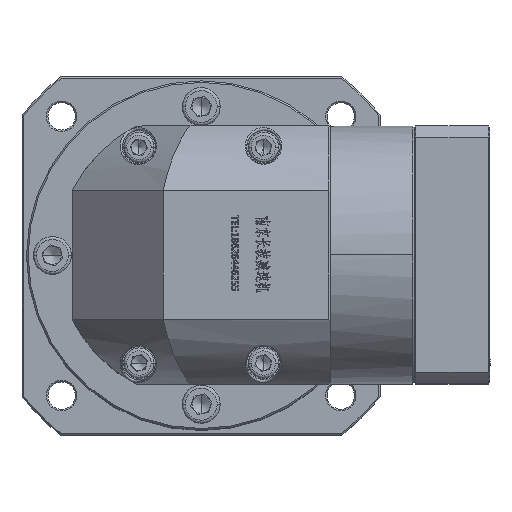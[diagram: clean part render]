
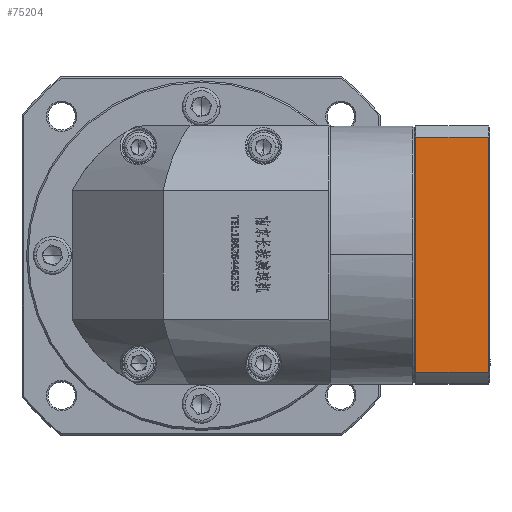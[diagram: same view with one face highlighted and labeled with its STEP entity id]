
A CAD part, top view. The second image highlights one B-rep face of the part: STEP entity #75204.
In plain terms, the highlighted planar face has unit normal (0, 0, 1).
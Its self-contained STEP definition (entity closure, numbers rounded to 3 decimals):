
#1488 = ORIENTED_EDGE ( 'NONE', *, *, #99392, .F. ) ;
#16878 = DIRECTION ( 'NONE',  ( 0., -1., 0. ) ) ;
#19899 = VERTEX_POINT ( 'NONE', #39829 ) ;
#28090 = EDGE_CURVE ( 'NONE', #171164, #110408, #60056, .T. ) ;
#29531 = EDGE_LOOP ( 'NONE', ( #147765, #52056, #99926, #1488 ) ) ;
#36474 = LINE ( 'NONE', #134497, #136483 ) ;
#37305 = DIRECTION ( 'NONE',  ( 0., 0., -1. ) ) ;
#39829 = CARTESIAN_POINT ( 'NONE',  ( 82.38, 104.232, 60.743 ) ) ;
#42121 = VECTOR ( 'NONE', #16878, 1000. ) ;
#44118 = CARTESIAN_POINT ( 'NONE',  ( 82.38, 100.462, 60.743 ) ) ;
#44289 = DIRECTION ( 'NONE',  ( 0., -1., 0. ) ) ;
#52056 = ORIENTED_EDGE ( 'NONE', *, *, #174159, .F. ) ;
#54184 = CARTESIAN_POINT ( 'NONE',  ( 106.38, 104.232, 60.743 ) ) ;
#59630 = VECTOR ( 'NONE', #171931, 1000. ) ;
#60056 = LINE ( 'NONE', #84724, #111062 ) ;
#68902 = CARTESIAN_POINT ( 'NONE',  ( 106.38, 181.691, 60.743 ) ) ;
#72100 = AXIS2_PLACEMENT_3D ( 'NONE', #118734, #37305, #132461 ) ;
#75204 = ADVANCED_FACE ( 'NONE', ( #128796 ), #91441, .F. ) ;
#76849 = CARTESIAN_POINT ( 'NONE',  ( -82.381, 104.232, 60.743 ) ) ;
#80273 = CARTESIAN_POINT ( 'NONE',  ( 82.38, 181.691, 60.743 ) ) ;
#84724 = CARTESIAN_POINT ( 'NONE',  ( 106.38, 100.462, 60.743 ) ) ;
#90530 = EDGE_CURVE ( 'NONE', #149736, #19899, #146411, .T. ) ;
#91441 = PLANE ( 'NONE',  #72100 ) ;
#99392 = EDGE_CURVE ( 'NONE', #149736, #171164, #36474, .T. ) ;
#99926 = ORIENTED_EDGE ( 'NONE', *, *, #28090, .F. ) ;
#110408 = VERTEX_POINT ( 'NONE', #54184 ) ;
#111062 = VECTOR ( 'NONE', #44289, 1000. ) ;
#118734 = CARTESIAN_POINT ( 'NONE',  ( 106.88, 100.462, 60.743 ) ) ;
#127750 = LINE ( 'NONE', #76849, #59630 ) ;
#128796 = FACE_OUTER_BOUND ( 'NONE', #29531, .T. ) ;
#132461 = DIRECTION ( 'NONE',  ( 0., 1., 0. ) ) ;
#134497 = CARTESIAN_POINT ( 'NONE',  ( 106.88, 181.691, 60.743 ) ) ;
#136483 = VECTOR ( 'NONE', #148148, 1000. ) ;
#146411 = LINE ( 'NONE', #44118, #42121 ) ;
#147765 = ORIENTED_EDGE ( 'NONE', *, *, #90530, .T. ) ;
#148148 = DIRECTION ( 'NONE',  ( 1., 0., 0. ) ) ;
#149736 = VERTEX_POINT ( 'NONE', #80273 ) ;
#171164 = VERTEX_POINT ( 'NONE', #68902 ) ;
#171931 = DIRECTION ( 'NONE',  ( -1., 0., 0. ) ) ;
#174159 = EDGE_CURVE ( 'NONE', #110408, #19899, #127750, .T. ) ;
